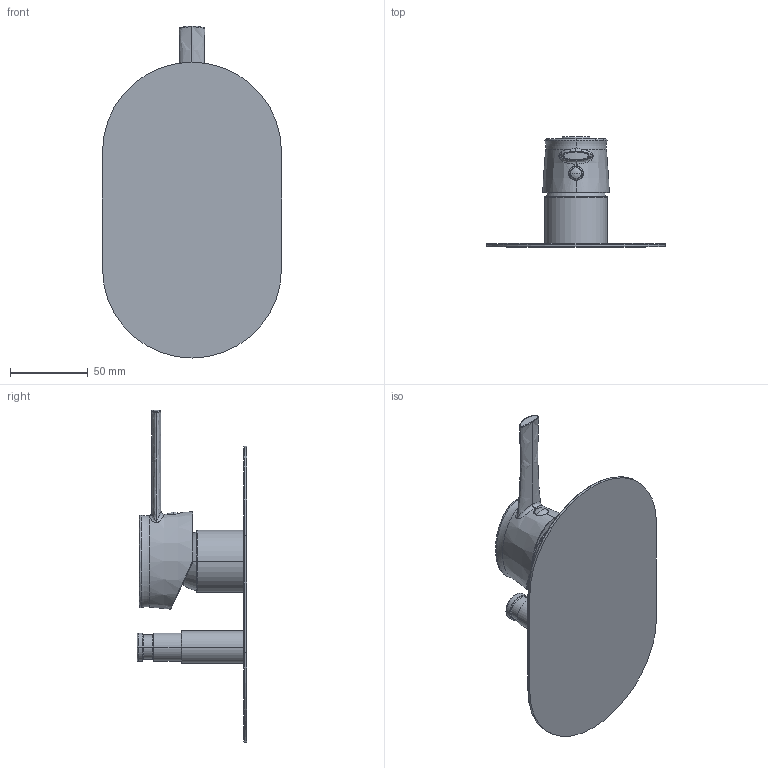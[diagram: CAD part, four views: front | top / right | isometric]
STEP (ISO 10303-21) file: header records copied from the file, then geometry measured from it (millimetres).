
FILE_DESCRIPTION((''),'2;1');
FILE_NAME('58010_SW0001','2026-03-03T10:39:58',('carloff'),(''),'CREO PARAMETRIC BY PTC INC, 2022014','CREO PARAMETRIC BY PTC INC, 2022014','');
FILE_SCHEMA(('CONFIG_CONTROL_DESIGN'));
Length unit declared in the file: millimetre
Products named in the file (1): 58010_SW0001
Bounding box: 115 x 70.6 x 213.22 mm (x, y, z)
Volume: 130374.8 mm3; surface area: 65038.8 mm2
Topology: 1 solids, 1 shells, 272 faces, 669 edges, 402 vertices
Faces by surface type: bspline 100, cylinder 63, plane 47, torus 29, cone 23, sphere 10
Entity records: 22041 total; most frequent: CARTESIAN_POINT 16361, ORIENTED_EDGE 1330, DIRECTION 955, EDGE_CURVE 665, VERTEX_POINT 402, AXIS2_PLACEMENT_3D 394, EDGE_LOOP 287, B_SPLINE_CURVE_WITH_KNOTS 276
